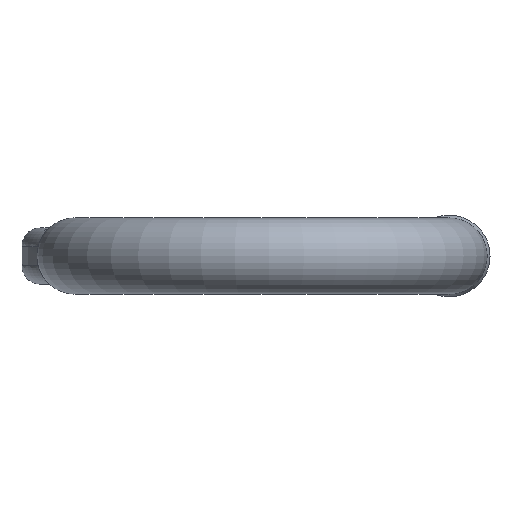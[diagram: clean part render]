
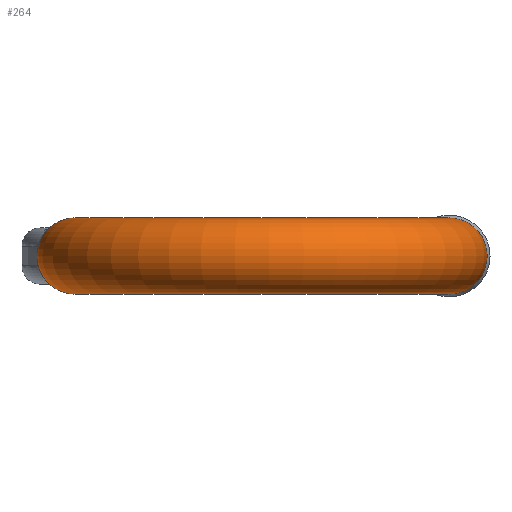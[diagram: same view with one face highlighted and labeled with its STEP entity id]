
A CAD part, front view. The second image highlights one B-rep face of the part: STEP entity #264.
In plain terms, the highlighted toroidal (fillet/blend) face has major radius 56.5 mm and minor radius 11.5 mm.
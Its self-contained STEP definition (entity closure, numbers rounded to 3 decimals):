
#229=TOROIDAL_SURFACE('',#2762,56.5,11.5);
#264=ADVANCED_FACE('',(#855,#856),#229,.T.);
#487=CIRCLE('',#2753,11.5);
#488=CIRCLE('',#2755,11.5);
#855=FACE_BOUND('',#888,.T.);
#856=FACE_BOUND('',#889,.T.);
#888=EDGE_LOOP('',(#1188));
#889=EDGE_LOOP('',(#1189));
#1188=ORIENTED_EDGE('',*,*,#2222,.F.);
#1189=ORIENTED_EDGE('',*,*,#2221,.T.);
#1953=VERTEX_POINT('',#4093);
#1954=VERTEX_POINT('',#4096);
#2221=EDGE_CURVE('',#1953,#1953,#487,.T.);
#2222=EDGE_CURVE('',#1954,#1954,#488,.T.);
#2753=AXIS2_PLACEMENT_3D('',#4092,#2922,#2923);
#2755=AXIS2_PLACEMENT_3D('',#4095,#2926,#2927);
#2762=AXIS2_PLACEMENT_3D('',#4106,#2940,#2941);
#2922=DIRECTION('',(0.,-1.,0.));
#2923=DIRECTION('',(1.,0.,0.));
#2926=DIRECTION('',(0.,1.,0.));
#2927=DIRECTION('',(-1.,0.,0.));
#2940=DIRECTION('',(0.,0.,-1.));
#2941=DIRECTION('',(-1.,0.,0.));
#4092=CARTESIAN_POINT('',(-56.5,-35.,0.));
#4093=CARTESIAN_POINT('',(-45.,-35.,0.));
#4095=CARTESIAN_POINT('',(56.5,-35.,0.));
#4096=CARTESIAN_POINT('',(45.,-35.,0.));
#4106=CARTESIAN_POINT('',(0.,-35.,0.));
